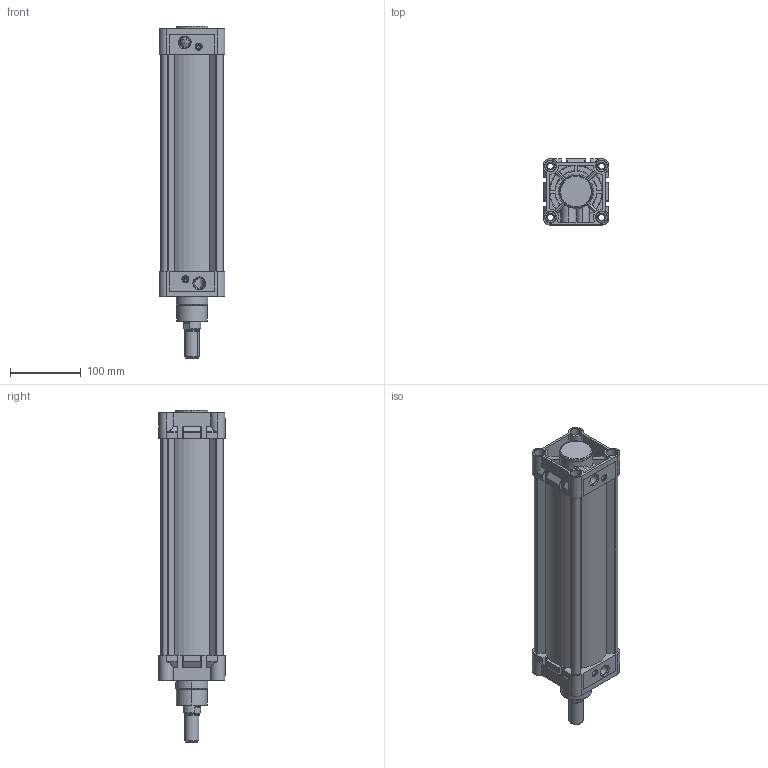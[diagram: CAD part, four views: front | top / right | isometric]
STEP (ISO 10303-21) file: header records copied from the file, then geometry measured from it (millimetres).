
FILE_DESCRIPTION (( 'STEP AP203' ), '1' );
FILE_NAME ('MDNC80x250CYLINDER.STEP', '2015-03-10T14:13:21', ( 'user' ), ( '' ), 'SwSTEP 2.0', 'SolidWorks 2013', '' );
FILE_SCHEMA (( 'CONFIG_CONTROL_DESIGN' ));
Length unit declared in the file: millimetre
Products named in the file (6): Piston Mili 80x250; 烰 KAPAK  80; MDNC 80X250 BORU; MDNC80x250CYLINDER; ARKA KAPAK  80; ORTA PÝSTON 80
Assembly tree (5 placements, depth 2):
  MDNC80x250CYLINDER
    ARKA KAPAK  80
    ORTA PÝSTON 80
    Piston Mili 80x250
    烰 KAPAK  80
    MDNC 80X250 BORU
Bounding box: 93 x 93.3 x 468 mm (x, y, z)
Volume: 1053390.5 mm3; surface area: 452947.2 mm2
Topology: 5 solids, 6 shells, 985 faces, 2625 edges, 1686 vertices
Faces by surface type: cylinder 415, plane 284, cone 190, bspline 96
Entity records: 45936 total; most frequent: CARTESIAN_POINT 23278, ORIENTED_EDGE 5230, DIRECTION 3580, EDGE_CURVE 2615, VERTEX_POINT 1686, AXIS2_PLACEMENT_3D 1300, B_SPLINE_CURVE_WITH_KNOTS 1209, EDGE_LOOP 1087
